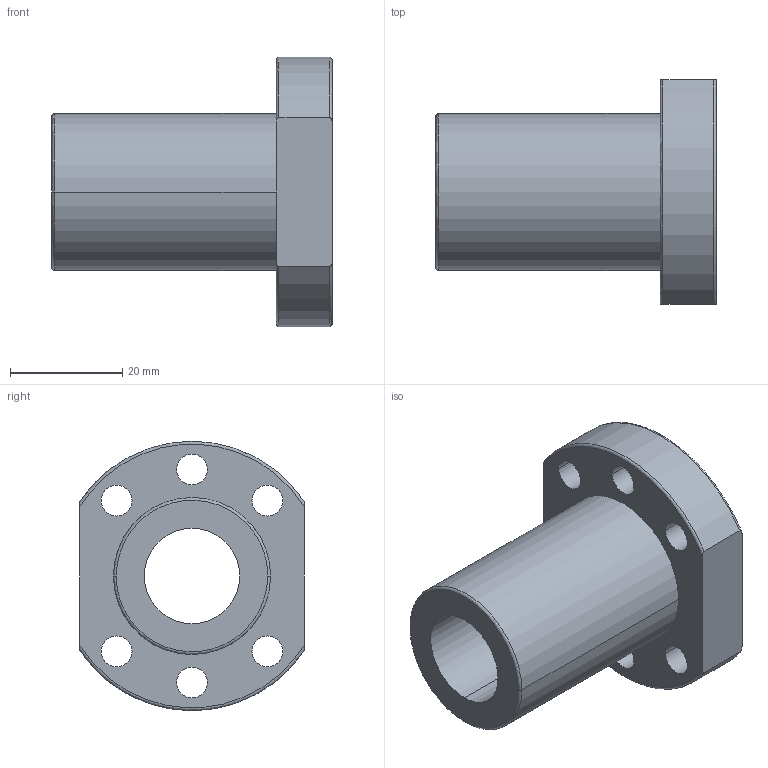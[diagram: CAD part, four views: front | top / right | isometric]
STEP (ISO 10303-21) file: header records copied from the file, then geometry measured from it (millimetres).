
FILE_DESCRIPTION (( 'STEP AP214' ), '1' );
FILE_NAME ('2.3012 Kuularuuvimutteri SFU1605-4.STEP', '2024-05-02T07:06:09', ( '' ), ( '' ), 'SwSTEP 2.0', 'SolidWorks 2024', '' );
FILE_SCHEMA (( 'AUTOMOTIVE_DESIGN' ));
Length unit declared in the file: millimetre
Products named in the file (1): 2.3012 Kuularuuvimutteri SFU1605-4
Bounding box: 50 x 40 x 48 mm (x, y, z)
Volume: 28493.6 mm3; surface area: 12234.1 mm2
Topology: 2 solids, 2 shells, 38 faces, 94 edges, 62 vertices
Faces by surface type: cylinder 24, plane 8, bspline 6
Entity records: 1672 total; most frequent: CARTESIAN_POINT 641, DIRECTION 196, ORIENTED_EDGE 188, EDGE_CURVE 94, AXIS2_PLACEMENT_3D 83, VERTEX_POINT 62, EDGE_LOOP 56, CIRCLE 50
